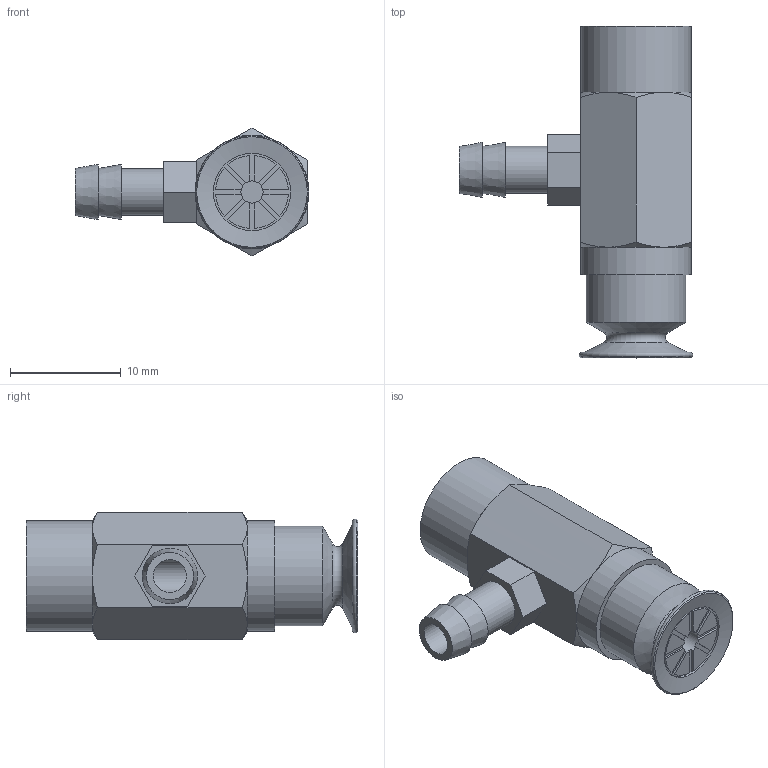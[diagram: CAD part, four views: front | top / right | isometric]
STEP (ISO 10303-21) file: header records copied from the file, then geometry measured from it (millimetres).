
FILE_DESCRIPTION(('STEP AP203'),'1');
FILE_NAME('.stp','2024-08-09T02:02:41',(' '),(' '),'Spatial InterOp 3D',' ',' ');
FILE_SCHEMA(('CONFIG_CONTROL_DESIGN'));
Length unit declared in the file: millimetre
Products named in the file (3): BBPAYK-10B-※; BPAYK-10B; BPAG-10B-※
Assembly tree (2 placements, depth 2):
  BBPAYK-10B-※
    BPAYK-10B
    BPAG-10B-※
Bounding box: 21.15 x 30 x 11.55 mm (x, y, z)
Volume: 2168.6 mm3; surface area: 2084.1 mm2
Topology: 2 solids, 2 shells, 107 faces, 253 edges, 159 vertices
Faces by surface type: plane 52, cylinder 23, cone 21, torus 11
Full cylindrical faces by diameter (mm): 2 x1, 3 x2, 3.242 x1, 4 x2, 4.26 x1, 5 x1, 6 x2, 7 x1, 9 x1, 10 x2
Entity records: 3160 total; most frequent: CARTESIAN_POINT 736, DIRECTION 488, ORIENTED_EDGE 414, EDGE_CURVE 207, AXIS2_PLACEMENT_3D 199, EDGE_LOOP 153, VERTEX_POINT 149, FACE_OUTER_BOUND 131
